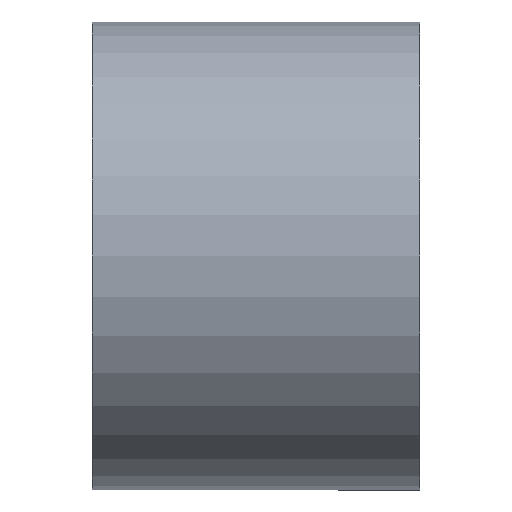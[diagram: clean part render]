
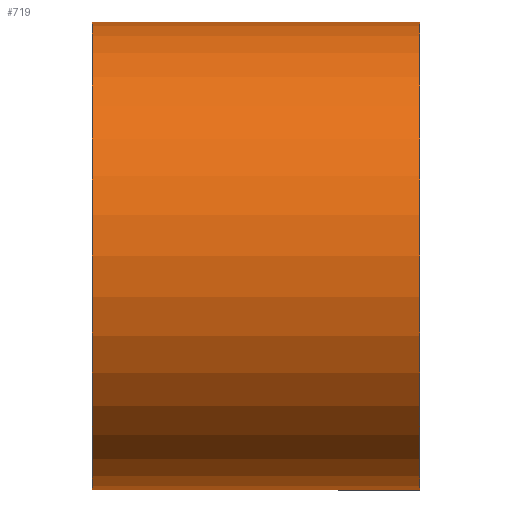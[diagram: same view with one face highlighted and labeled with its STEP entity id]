
A CAD part, front view. The second image highlights one B-rep face of the part: STEP entity #719.
In plain terms, the highlighted cylindrical face has radius 25 mm (diameter 50 mm), a partial arc.
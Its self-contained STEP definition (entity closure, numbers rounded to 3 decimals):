
#43 = FACE_OUTER_BOUND ( 'NONE', #792, .T. ) ;
#46 = LINE ( 'NONE', #338, #291 ) ;
#57 = LINE ( 'NONE', #176, #439 ) ;
#101 = CIRCLE ( 'NONE', #243, 25. ) ;
#104 = DIRECTION ( 'NONE',  ( -1., 0., 0. ) ) ;
#154 = CARTESIAN_POINT ( 'NONE',  ( 17.5, 0., 25. ) ) ;
#161 = EDGE_CURVE ( 'NONE', #249, #638, #101, .T. ) ;
#176 = CARTESIAN_POINT ( 'NONE',  ( 0., 0., -25. ) ) ;
#205 = CARTESIAN_POINT ( 'NONE',  ( 17.5, 0., 0. ) ) ;
#243 = AXIS2_PLACEMENT_3D ( 'NONE', #205, #407, #403 ) ;
#249 = VERTEX_POINT ( 'NONE', #497 ) ;
#256 = CIRCLE ( 'NONE', #584, 25. ) ;
#258 = DIRECTION ( 'NONE',  ( 0., 0., 1. ) ) ;
#291 = VECTOR ( 'NONE', #328, 1000. ) ;
#328 = DIRECTION ( 'NONE',  ( -1., 0., 0. ) ) ;
#338 = CARTESIAN_POINT ( 'NONE',  ( 0., 0., 25. ) ) ;
#366 = ORIENTED_EDGE ( 'NONE', *, *, #402, .T. ) ;
#379 = CARTESIAN_POINT ( 'NONE',  ( -17.5, 0., -25. ) ) ;
#402 = EDGE_CURVE ( 'NONE', #638, #507, #46, .T. ) ;
#403 = DIRECTION ( 'NONE',  ( 0., 0., 1. ) ) ;
#407 = DIRECTION ( 'NONE',  ( -1., 0., 0. ) ) ;
#409 = ORIENTED_EDGE ( 'NONE', *, *, #582, .F. ) ;
#438 = DIRECTION ( 'NONE',  ( 0., 0., 1. ) ) ;
#439 = VECTOR ( 'NONE', #668, 1000. ) ;
#497 = CARTESIAN_POINT ( 'NONE',  ( 17.5, 0., -25. ) ) ;
#507 = VERTEX_POINT ( 'NONE', #683 ) ;
#554 = ORIENTED_EDGE ( 'NONE', *, *, #707, .F. ) ;
#580 = CARTESIAN_POINT ( 'NONE',  ( -17.5, 0., 0. ) ) ;
#582 = EDGE_CURVE ( 'NONE', #735, #507, #256, .T. ) ;
#584 = AXIS2_PLACEMENT_3D ( 'NONE', #580, #104, #438 ) ;
#594 = DIRECTION ( 'NONE',  ( -1., 0., 0. ) ) ;
#638 = VERTEX_POINT ( 'NONE', #154 ) ;
#668 = DIRECTION ( 'NONE',  ( -1., 0., 0. ) ) ;
#683 = CARTESIAN_POINT ( 'NONE',  ( -17.5, 0., 25. ) ) ;
#707 = EDGE_CURVE ( 'NONE', #249, #735, #57, .T. ) ;
#719 = ADVANCED_FACE ( 'NONE', ( #43 ), #732, .T. ) ;
#732 = CYLINDRICAL_SURFACE ( 'NONE', #741, 25. ) ;
#735 = VERTEX_POINT ( 'NONE', #379 ) ;
#741 = AXIS2_PLACEMENT_3D ( 'NONE', #867, #594, #258 ) ;
#759 = ORIENTED_EDGE ( 'NONE', *, *, #161, .T. ) ;
#792 = EDGE_LOOP ( 'NONE', ( #554, #759, #366, #409 ) ) ;
#867 = CARTESIAN_POINT ( 'NONE',  ( 0., 0., 0. ) ) ;
